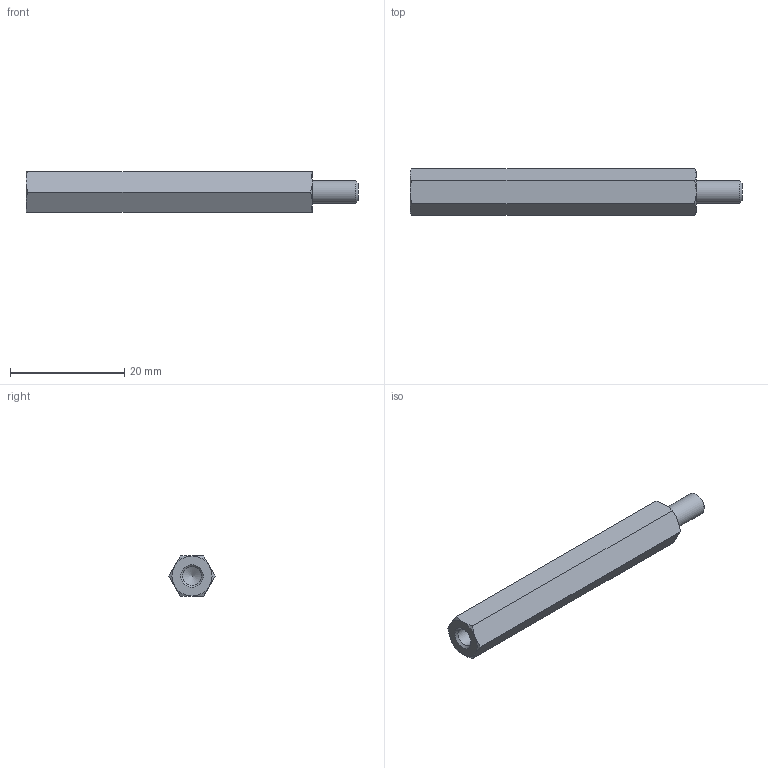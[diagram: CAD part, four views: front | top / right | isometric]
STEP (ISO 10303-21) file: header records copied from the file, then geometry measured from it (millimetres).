
FILE_DESCRIPTION( ( 'STEP AP203' ), '1' );
FILE_NAME( 'C:/Temp/Ganter_Step_05_03_2020/data/3_2/gn6220/gn6220_ni/Stainless Steel-Spacer GN 6220-NI-M4-50-B.stp', '2020-03-13T05:43:11', ( 'License CC BY-ND 4.0' ), ( 'CADENAS' ), ' ', 'PARTsolutions', ' ' );
FILE_SCHEMA( ( 'CONFIG_CONTROL_DESIGN' ) );
Length unit declared in the file: millimetre
Products named in the file (1): _Stainless Steel-Spacer GN 6220-NI-M4-50-B
Bounding box: 58 x 8.08 x 7 mm (x, y, z)
Volume: 2103.1 mm3; surface area: 1530.3 mm2
Topology: 1 solids, 1 shells, 26 faces, 55 edges, 32 vertices
Faces by surface type: cone 15, plane 9, cylinder 2
Full cylindrical faces by diameter (mm): 3.242 x1, 4 x1
Entity records: 746 total; most frequent: CARTESIAN_POINT 210, DIRECTION 96, ORIENTED_EDGE 96, EDGE_CURVE 48, AXIS2_PLACEMENT_3D 45, EDGE_LOOP 32, VERTEX_POINT 31, FACE_OUTER_BOUND 28
